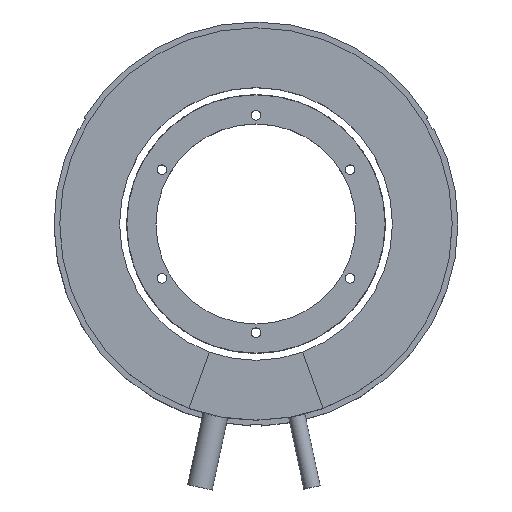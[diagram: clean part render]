
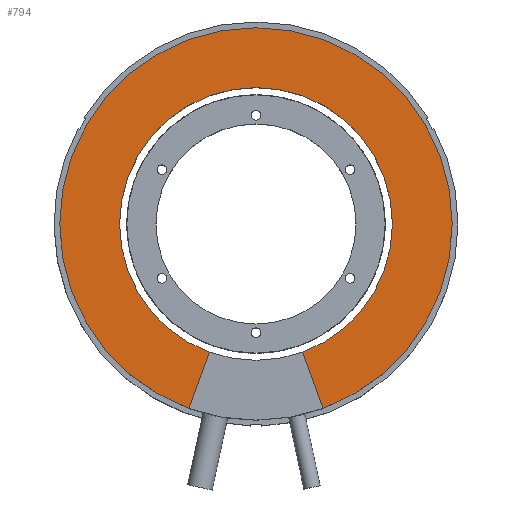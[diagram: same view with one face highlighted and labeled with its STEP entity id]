
A CAD part, top view. The second image highlights one B-rep face of the part: STEP entity #794.
In plain terms, the highlighted planar face has unit normal (0, 0, 1).
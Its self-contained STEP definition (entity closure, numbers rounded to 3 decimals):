
#44 = AXIS2_PLACEMENT_3D ( 'NONE', #676, #3038, #1612 ) ;
#171 = EDGE_CURVE ( 'NONE', #2884, #5793, #4862, .T. ) ;
#302 = CARTESIAN_POINT ( 'NONE',  ( -17.443, -47.924, 25. ) ) ;
#353 = PLANE ( 'NONE',  #4994 ) ;
#467 = ORIENTED_EDGE ( 'NONE', *, *, #171, .T. ) ;
#534 = AXIS2_PLACEMENT_3D ( 'NONE', #2059, #4426, #3003 ) ;
#676 = CARTESIAN_POINT ( 'NONE',  ( 0., 0., 25. ) ) ;
#743 = DIRECTION ( 'NONE',  ( 0., 0., 1. ) ) ;
#794 = ADVANCED_FACE ( 'NONE', ( #800 ), #353, .T. ) ;
#800 = FACE_OUTER_BOUND ( 'NONE', #3250, .T. ) ;
#852 = VERTEX_POINT ( 'NONE', #5970 ) ;
#916 = CARTESIAN_POINT ( 'NONE',  ( 12.125, -33.312, 25. ) ) ;
#1134 = ORIENTED_EDGE ( 'NONE', *, *, #3379, .F. ) ;
#1171 = AXIS2_PLACEMENT_3D ( 'NONE', #3331, #3690, #2841 ) ;
#1379 = AXIS2_PLACEMENT_3D ( 'NONE', #3535, #743, #1619 ) ;
#1415 = EDGE_CURVE ( 'NONE', #3316, #2884, #2500, .T. ) ;
#1421 = CARTESIAN_POINT ( 'NONE',  ( -12.125, -33.312, 25. ) ) ;
#1612 = DIRECTION ( 'NONE',  ( 1., 0., 0. ) ) ;
#1619 = DIRECTION ( 'NONE',  ( 1., 0., 0. ) ) ;
#1733 = ORIENTED_EDGE ( 'NONE', *, *, #4849, .F. ) ;
#1796 = CARTESIAN_POINT ( 'NONE',  ( 12.125, -33.312, 25. ) ) ;
#1838 = VERTEX_POINT ( 'NONE', #5203 ) ;
#1997 = CARTESIAN_POINT ( 'NONE',  ( 0., 0., 25. ) ) ;
#2015 = AXIS2_PLACEMENT_3D ( 'NONE', #2789, #4705, #3363 ) ;
#2059 = CARTESIAN_POINT ( 'NONE',  ( 0., 0., 25. ) ) ;
#2153 = VERTEX_POINT ( 'NONE', #2310 ) ;
#2222 = LINE ( 'NONE', #1796, #5013 ) ;
#2286 = ORIENTED_EDGE ( 'NONE', *, *, #1415, .T. ) ;
#2294 = EDGE_CURVE ( 'NONE', #4922, #2153, #4299, .T. ) ;
#2310 = CARTESIAN_POINT ( 'NONE',  ( 35.45, 0., 25. ) ) ;
#2413 = EDGE_CURVE ( 'NONE', #3677, #852, #3146, .T. ) ;
#2500 = CIRCLE ( 'NONE', #2015, 51. ) ;
#2789 = CARTESIAN_POINT ( 'NONE',  ( 0., 0., 25. ) ) ;
#2841 = DIRECTION ( 'NONE',  ( 1., 0., 0. ) ) ;
#2884 = VERTEX_POINT ( 'NONE', #3870 ) ;
#2913 = ORIENTED_EDGE ( 'NONE', *, *, #3134, .T. ) ;
#3003 = DIRECTION ( 'NONE',  ( 1., 0., 0. ) ) ;
#3012 = CARTESIAN_POINT ( 'NONE',  ( -35.45, 0., 25. ) ) ;
#3021 = CARTESIAN_POINT ( 'NONE',  ( 51., 0., 25. ) ) ;
#3038 = DIRECTION ( 'NONE',  ( 0., 0., 1. ) ) ;
#3053 = ORIENTED_EDGE ( 'NONE', *, *, #2413, .F. ) ;
#3118 = AXIS2_PLACEMENT_3D ( 'NONE', #1997, #4336, #4310 ) ;
#3134 = EDGE_CURVE ( 'NONE', #1838, #3316, #3792, .T. ) ;
#3146 = CIRCLE ( 'NONE', #534, 35.45 ) ;
#3170 = EDGE_CURVE ( 'NONE', #852, #5793, #3244, .T. ) ;
#3222 = CIRCLE ( 'NONE', #1379, 35.45 ) ;
#3244 = LINE ( 'NONE', #1421, #3985 ) ;
#3250 = EDGE_LOOP ( 'NONE', ( #1134, #2913, #2286, #467, #5113, #3053, #1733, #3864 ) ) ;
#3316 = VERTEX_POINT ( 'NONE', #3021 ) ;
#3331 = CARTESIAN_POINT ( 'NONE',  ( 0., 0., 25. ) ) ;
#3363 = DIRECTION ( 'NONE',  ( 1., 0., 0. ) ) ;
#3379 = EDGE_CURVE ( 'NONE', #1838, #4922, #2222, .T. ) ;
#3465 = CARTESIAN_POINT ( 'NONE',  ( 35.45, 0., 25. ) ) ;
#3535 = CARTESIAN_POINT ( 'NONE',  ( 0., 0., 25. ) ) ;
#3677 = VERTEX_POINT ( 'NONE', #3012 ) ;
#3690 = DIRECTION ( 'NONE',  ( 0., 0., 1. ) ) ;
#3792 = CIRCLE ( 'NONE', #1171, 51. ) ;
#3864 = ORIENTED_EDGE ( 'NONE', *, *, #2294, .F. ) ;
#3870 = CARTESIAN_POINT ( 'NONE',  ( -51., 0., 25. ) ) ;
#3888 = DIRECTION ( 'NONE',  ( 0., 0., 1. ) ) ;
#3985 = VECTOR ( 'NONE', #5092, 1000. ) ;
#3990 = DIRECTION ( 'NONE',  ( -0.342, 0.94, 0. ) ) ;
#4299 = CIRCLE ( 'NONE', #44, 35.45 ) ;
#4310 = DIRECTION ( 'NONE',  ( 1., 0., 0. ) ) ;
#4336 = DIRECTION ( 'NONE',  ( 0., 0., 1. ) ) ;
#4379 = DIRECTION ( 'NONE',  ( 1., 0., 0. ) ) ;
#4426 = DIRECTION ( 'NONE',  ( 0., 0., 1. ) ) ;
#4705 = DIRECTION ( 'NONE',  ( 0., 0., 1. ) ) ;
#4849 = EDGE_CURVE ( 'NONE', #2153, #3677, #3222, .T. ) ;
#4862 = CIRCLE ( 'NONE', #3118, 51. ) ;
#4922 = VERTEX_POINT ( 'NONE', #916 ) ;
#4994 = AXIS2_PLACEMENT_3D ( 'NONE', #3465, #3888, #4379 ) ;
#5013 = VECTOR ( 'NONE', #3990, 1000. ) ;
#5092 = DIRECTION ( 'NONE',  ( -0.342, -0.94, 0. ) ) ;
#5113 = ORIENTED_EDGE ( 'NONE', *, *, #3170, .F. ) ;
#5203 = CARTESIAN_POINT ( 'NONE',  ( 17.443, -47.924, 25. ) ) ;
#5793 = VERTEX_POINT ( 'NONE', #302 ) ;
#5970 = CARTESIAN_POINT ( 'NONE',  ( -12.125, -33.312, 25. ) ) ;
